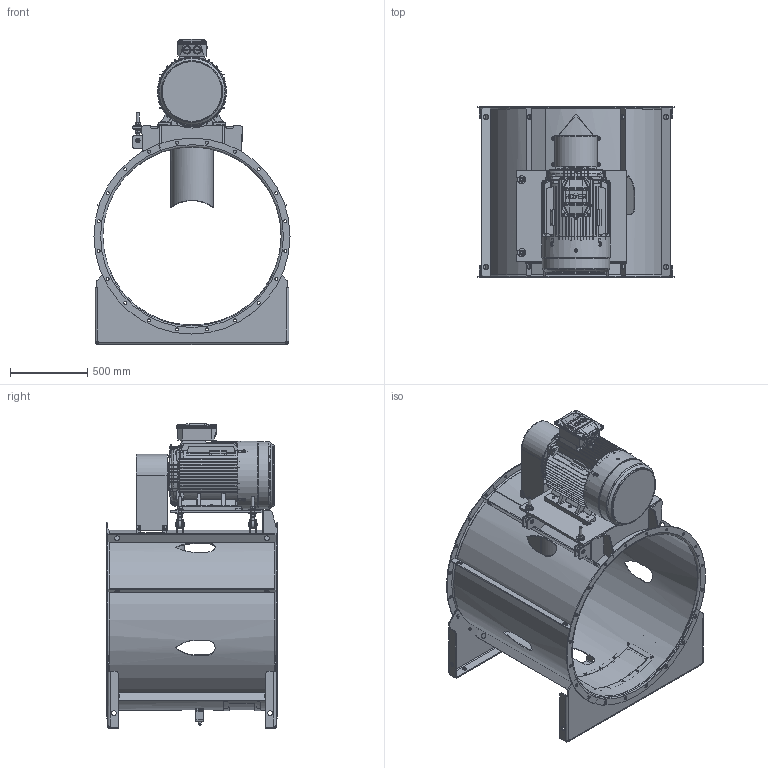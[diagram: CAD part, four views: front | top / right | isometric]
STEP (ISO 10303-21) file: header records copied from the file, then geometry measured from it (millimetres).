
FILE_DESCRIPTION(/* description */ ('Unknown'),/* implementation_level */ '2;1');
FILE_NAME(/* name */ 'WO-1150_nap2_stopy',/* time_stamp */ '2024-06-07T11:32:39+02:00',/* author */ ('Unknown'),/* organization */ ('Unknown'),/* preprocessor_version */ 'ST-DEVELOPER v19.4',/* originating_system */ 'Solid Edge',/* authorisation */ 'Unknown');
FILE_SCHEMA (('AUTOMOTIVE_DESIGN {1 0 10303 214 3 1 1}'));
Products named in the file (69): WO-1150_nap2_stopy; WO-1150_oa_0; korpus_oa_1; p³aszcz; kana³ ch³odz¹cy_oa_2; os³ona pasów; p³aszcz zew 1; przegroda; p³aszcz zew 2; wspornik D; Nakrêtka M20-ocynk; sworzeñ; podstawa silnika; p³yta podstawy silnika; ucho; ogranicznik silnika; Podk³adka okr. du¿a 21-FeZn; wspornik C; 20,5; œruba oczkowa M20x180; tulejka; pr皻 gwintowany; Plytka_osadcza_sprezynujaca_15; wspornik A; Wspornik B; os³ona ko³a pasowego; blacha poz 2; blacha poz 1; ko³ek; uchwyt poz 3; uchwyt poz 4; 6,4; 6,1; M6x20; 90054_oa_3; HMC3-225-frame-B3_225M; HMC3-225-shield_front-4p; HMC3-225-shield_back-2P; HMC3-225 outer bearing cap_front; HMC3-200 outer bearing cap_back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
Assembly tree (149 placements, depth 5):
  WO-1150_nap2_stopy
    WO-1150_oa_0
      korpus_oa_1
        p³aszcz
        kana³ ch³odz¹cy_oa_2
        os³ona pasów
          p³aszcz zew 1
          przegroda  x2
          p³aszcz zew 2
        wspornik D  x2
        Nakrêtka M20-ocynk  x4
        sworzeñ  x2
        podstawa silnika
          p³yta podstawy silnika
          ucho  x4
          ogranicznik silnika  x2
        Podk³adka okr. du¿a 21-FeZn  x4
        wspornik C
        20,5  x4
        œruba oczkowa M20x180  x2
          tulejka
          pr皻 gwintowany
        Plytka_osadcza_sprezynujaca_15  x4
        wspornik A  x4
        Wspornik B  x6
      os³ona ko³a pasowego
        blacha poz 2
        blacha poz 1
        ko³ek  x4
        uchwyt poz 3  x2
        uchwyt poz 4  x2
        6,4  x4
        6,1  x4
        M6x20  x4
      90054_oa_3
        HMC3-225-frame-B3_225M
        HMC3-225-shield_front-4p
        HMC3-225-shield_back-2P
        HMC3-225 outer bearing cap_front
        HMC3-200 outer bearing cap_back
        160-180 gasket_200-225 black
        200-225 terminal box
          HMC3-200-225 terminal box base-79521_200-225 black
          HMC3 200-225 terminal box cover-79515_250-280 black
          gasket in tbox_200-225 black
          5783_GB_FASTENER_BOLT_STBAB A M8X20-N  x4
          BC M50X1.5  x2
          PG11  x2
        HMC3-225 fan cover
        SH315 oil cm  x2
          SH315 oil cup
          SH315 red plastic cap
        hex screw gradec_iso_ISO 4018 - M12 x 40-NN  x8
        spring lock washers--normal type gb_GB_FASTENER_WASHER_SW 12  x8
        spring lock washers--normal type gb_GB_FASTENER_WASHER_SW 8  x7
        hex screw gradec_iso_ISO 4018 - M8 x 40-NN  x6
        hex flange bolt small_iso_ISO 4162 - M6 x 12 x 12-N  x4
        hex screw gradec_iso_ISO 4018 - M10 x 40-NN  x2
        hex screw gradec_iso_ISO 4018 - M6 x 30-NN  x2
        hex screw gradec_iso_ISO 4018 - M8 x 25-NN
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Bounding box: 1265 x 1100 x 1969 mm (x, y, z)
Volume: 62087732.5 mm3; surface area: 19865028 mm2
Topology: 139 solids, 139 shells, 4009 faces, 10230 edges, 6640 vertices
Faces by surface type: plane 1953, cylinder 1171, cone 542, torus 205, bspline 132, sphere 6
Full cylindrical faces by diameter (mm): 1.676 x2, 2.5 x6, 3.2 x2, 4.917 x12, 5 x9, 5.589 x2, 6 x11, 6.1 x4, 6.4 x4, 6.8 x10, 6.958 x2, 7.144 x2, 7.993 x2, 8 x15, 8.376 x10, 8.68 x7, 8.917 x2, 9 x1, 10 x31, 10.18 x4, 10.2 x10, 10.214 x2, 11 x2, 12 x11, 12.5 x4, 12.88 x7, 12.9 x8, 13 x8, 14 x1, 14.5 x10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
Entity records: 104546 total; most frequent: CARTESIAN_POINT 30818, ORIENTED_EDGE 14412, DIRECTION 14186, EDGE_CURVE 7206, AXIS2_PLACEMENT_3D 5331, VERTEX_POINT 4887, FACE_BOUND 3753, EDGE_LOOP 3742
